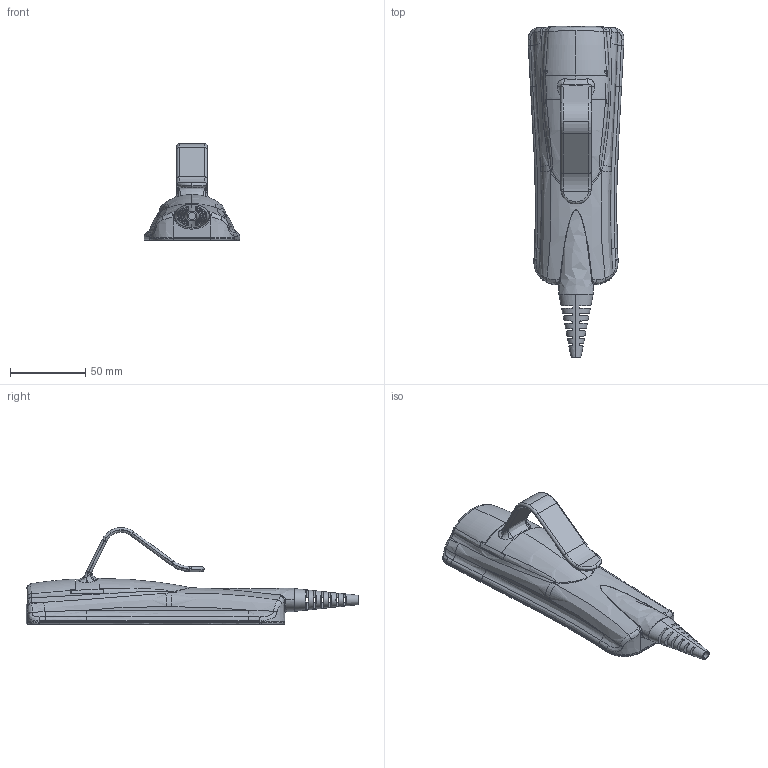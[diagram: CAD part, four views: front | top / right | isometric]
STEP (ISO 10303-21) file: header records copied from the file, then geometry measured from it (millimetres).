
FILE_DESCRIPTION (( 'STEP AP203' ), '1' );
FILE_NAME ('kumanda model DOLU.STEP', '2023-07-26T14:24:09', ( '' ), ( '' ), 'SwSTEP 2.0', 'SolidWorks 2023', '' );
FILE_SCHEMA (( 'CONFIG_CONTROL_DESIGN' ));
Length unit declared in the file: millimetre
Products named in the file (1): kumanda model DOLU
Bounding box: 63.66 x 220.29 x 64.28 mm (x, y, z)
Volume: 195046.7 mm3; surface area: 36603.3 mm2
Topology: 1 solids, 2 shells, 282 faces, 710 edges, 436 vertices
Faces by surface type: bspline 121, plane 84, cylinder 35, torus 28, cone 14
Entity records: 21648 total; most frequent: CARTESIAN_POINT 15781, ORIENTED_EDGE 1420, DIRECTION 893, EDGE_CURVE 710, VERTEX_POINT 436, AXIS2_PLACEMENT_3D 356, EDGE_LOOP 314, B_SPLINE_CURVE_WITH_KNOTS 309
